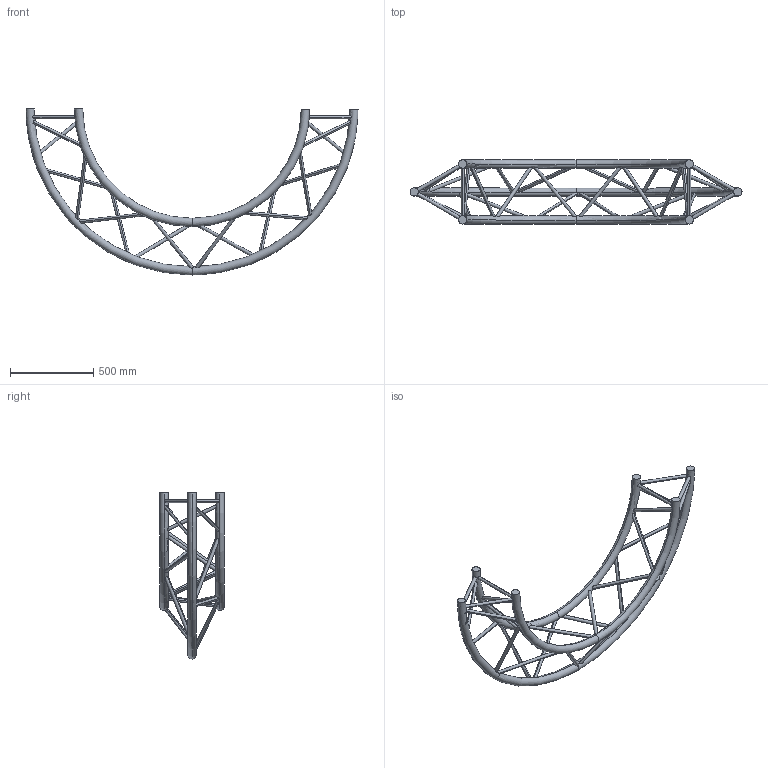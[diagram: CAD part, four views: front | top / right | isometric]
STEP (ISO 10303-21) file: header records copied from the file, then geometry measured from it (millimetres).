
FILE_DESCRIPTION (( 'STEP AP203' ), '1' );
FILE_NAME ('SXC39200PE.STEP', '2009-10-21T11:54:18', ( 'CEDIA' ), ( 'CEDIA INDUSTRIE' ), 'SwSTEP 2.0', 'SolidWorks 2009', '' );
FILE_SCHEMA (( 'CONFIG_CONTROL_DESIGN' ));
Length unit declared in the file: millimetre
Products named in the file (1): SXC39200PE
Bounding box: 2000 x 387 x 1000 mm (x, y, z)
Volume: 17795588.6 mm3; surface area: 1816300.2 mm2
Topology: 1 solids, 1 shells, 78 faces, 216 edges, 142 vertices
Faces by surface type: cylinder 60, torus 12, plane 6
Entity records: 8351 total; most frequent: CARTESIAN_POINT 6383, ORIENTED_EDGE 432, DIRECTION 282, EDGE_CURVE 216, VERTEX_POINT 142, EDGE_LOOP 136, B_SPLINE_CURVE_WITH_KNOTS 124, AXIS2_PLACEMENT_3D 111
